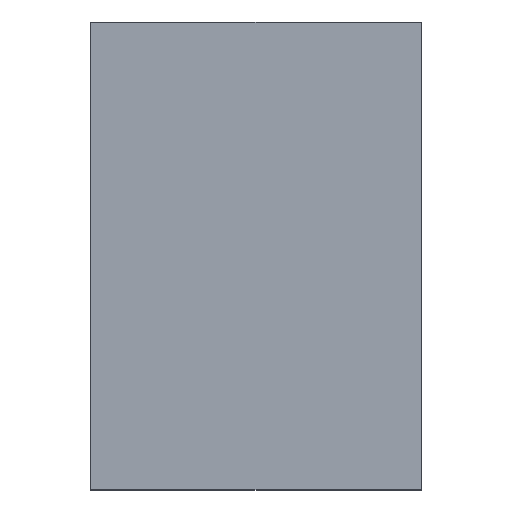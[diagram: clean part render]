
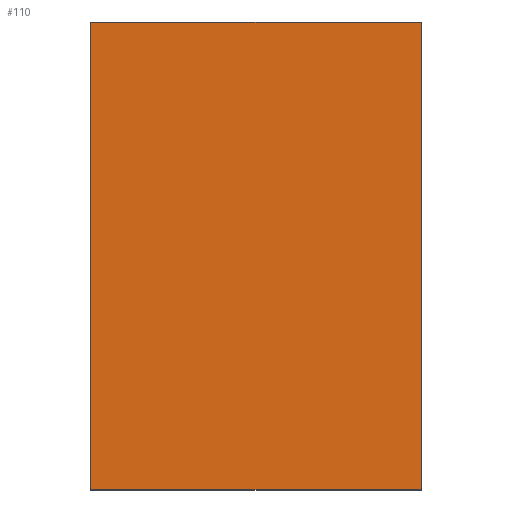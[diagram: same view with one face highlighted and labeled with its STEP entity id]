
A CAD part, top view. The second image highlights one B-rep face of the part: STEP entity #110.
In plain terms, the highlighted planar face has unit normal (0, 0, 1).
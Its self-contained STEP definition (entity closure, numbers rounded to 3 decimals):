
#24=FACE_OUTER_BOUND('',#30,.T.);
#30=EDGE_LOOP('',(#95,#96,#97,#98));
#31=LINE('',#168,#43);
#35=LINE('',#176,#47);
#38=LINE('',#182,#50);
#41=LINE('',#187,#53);
#43=VECTOR('',#139,10.);
#47=VECTOR('',#145,10.);
#50=VECTOR('',#150,10.);
#53=VECTOR('',#155,10.);
#55=VERTEX_POINT('',#166);
#56=VERTEX_POINT('',#167);
#59=VERTEX_POINT('',#175);
#61=VERTEX_POINT('',#181);
#63=EDGE_CURVE('',#55,#56,#31,.T.);
#67=EDGE_CURVE('',#56,#59,#35,.T.);
#70=EDGE_CURVE('',#59,#61,#38,.T.);
#73=EDGE_CURVE('',#61,#55,#41,.T.);
#95=ORIENTED_EDGE('',*,*,#73,.T.);
#96=ORIENTED_EDGE('',*,*,#63,.T.);
#97=ORIENTED_EDGE('',*,*,#67,.T.);
#98=ORIENTED_EDGE('',*,*,#70,.T.);
#104=PLANE('',#131);
#110=ADVANCED_FACE('',(#24),#104,.F.);
#131=AXIS2_PLACEMENT_3D('',#190,#159,#160);
#139=DIRECTION('',(0.,1.,0.));
#145=DIRECTION('',(-1.,0.,0.));
#150=DIRECTION('',(0.,-1.,0.));
#155=DIRECTION('',(1.,0.,0.));
#159=DIRECTION('center_axis',(0.,0.,-1.));
#160=DIRECTION('ref_axis',(1.,0.,0.));
#166=CARTESIAN_POINT('',(107.135,526.473,-248.351));
#167=CARTESIAN_POINT('',(107.135,576.723,-248.351));
#168=CARTESIAN_POINT('',(107.135,526.473,-248.351));
#175=CARTESIAN_POINT('',(71.635,576.723,-248.351));
#176=CARTESIAN_POINT('',(107.135,576.723,-248.351));
#181=CARTESIAN_POINT('',(71.635,526.473,-248.351));
#182=CARTESIAN_POINT('',(71.635,576.723,-248.351));
#187=CARTESIAN_POINT('',(71.635,526.473,-248.351));
#190=CARTESIAN_POINT('Origin',(89.385,551.598,-248.351));
